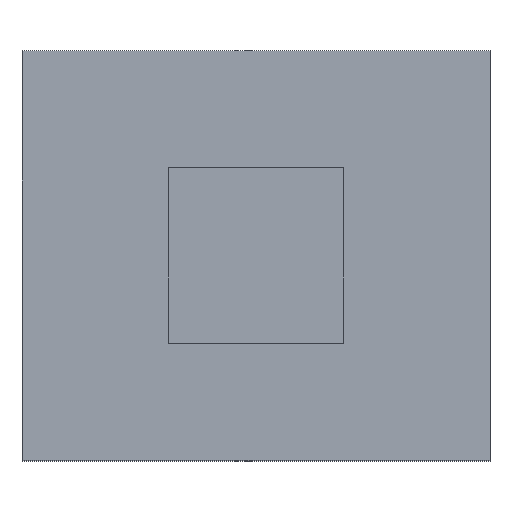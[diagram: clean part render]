
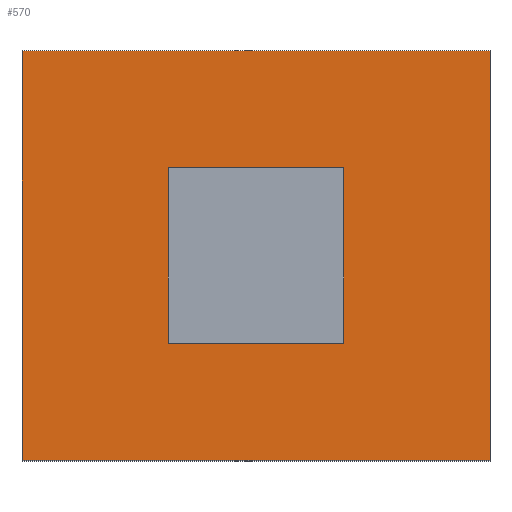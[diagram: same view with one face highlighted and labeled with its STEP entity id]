
A CAD part, top view. The second image highlights one B-rep face of the part: STEP entity #570.
In plain terms, the highlighted planar face has unit normal (0, 0, 1).
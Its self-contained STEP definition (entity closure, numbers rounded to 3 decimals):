
#32 = PLANE('',#33);
#33 = AXIS2_PLACEMENT_3D('',#34,#35,#36);
#34 = CARTESIAN_POINT('',(0.,14.,16.));
#35 = DIRECTION('',(1.,0.,0.));
#36 = DIRECTION('',(0.,0.,-1.));
#57 = VERTEX_POINT('',#58);
#58 = CARTESIAN_POINT('',(0.,14.,16.));
#72 = PLANE('',#73);
#73 = AXIS2_PLACEMENT_3D('',#74,#75,#76);
#74 = CARTESIAN_POINT('',(0.,14.,16.));
#75 = DIRECTION('',(0.,-1.,0.));
#76 = DIRECTION('',(0.,0.,-1.));
#84 = EDGE_CURVE('',#57,#85,#87,.T.);
#85 = VERTEX_POINT('',#86);
#86 = CARTESIAN_POINT('',(0.,0.,16.));
#87 = SURFACE_CURVE('',#88,(#92,#99),.PCURVE_S1.);
#88 = LINE('',#89,#90);
#89 = CARTESIAN_POINT('',(0.,14.,16.));
#90 = VECTOR('',#91,1.);
#91 = DIRECTION('',(0.,-1.,0.));
#92 = PCURVE('',#32,#93);
#93 = DEFINITIONAL_REPRESENTATION('',(#94),#98);
#94 = LINE('',#95,#96);
#95 = CARTESIAN_POINT('',(0.,0.));
#96 = VECTOR('',#97,1.);
#97 = DIRECTION('',(0.,-1.));
#98 = ( GEOMETRIC_REPRESENTATION_CONTEXT(2) 
PARAMETRIC_REPRESENTATION_CONTEXT() REPRESENTATION_CONTEXT('2D SPACE',''
  ) );
#99 = PCURVE('',#100,#105);
#100 = PLANE('',#101);
#101 = AXIS2_PLACEMENT_3D('',#102,#103,#104);
#102 = CARTESIAN_POINT('',(0.,14.,16.));
#103 = DIRECTION('',(0.,0.,-1.));
#104 = DIRECTION('',(1.,0.,0.));
#105 = DEFINITIONAL_REPRESENTATION('',(#106),#110);
#106 = LINE('',#107,#108);
#107 = CARTESIAN_POINT('',(0.,0.));
#108 = VECTOR('',#109,1.);
#109 = DIRECTION('',(0.,1.));
#110 = ( GEOMETRIC_REPRESENTATION_CONTEXT(2) 
PARAMETRIC_REPRESENTATION_CONTEXT() REPRESENTATION_CONTEXT('2D SPACE',''
  ) );
#128 = PLANE('',#129);
#129 = AXIS2_PLACEMENT_3D('',#130,#131,#132);
#130 = CARTESIAN_POINT('',(0.,0.,16.));
#131 = DIRECTION('',(0.,-1.,0.));
#132 = DIRECTION('',(0.,0.,-1.));
#293 = PLANE('',#294);
#294 = AXIS2_PLACEMENT_3D('',#295,#296,#297);
#295 = CARTESIAN_POINT('',(16.,14.,16.));
#296 = DIRECTION('',(1.,0.,0.));
#297 = DIRECTION('',(0.,0.,-1.));
#525 = EDGE_CURVE('',#85,#526,#528,.T.);
#526 = VERTEX_POINT('',#527);
#527 = CARTESIAN_POINT('',(16.,0.,16.));
#528 = SURFACE_CURVE('',#529,(#533,#540),.PCURVE_S1.);
#529 = LINE('',#530,#531);
#530 = CARTESIAN_POINT('',(0.,0.,16.));
#531 = VECTOR('',#532,1.);
#532 = DIRECTION('',(1.,0.,0.));
#533 = PCURVE('',#128,#534);
#534 = DEFINITIONAL_REPRESENTATION('',(#535),#539);
#535 = LINE('',#536,#537);
#536 = CARTESIAN_POINT('',(0.,0.));
#537 = VECTOR('',#538,1.);
#538 = DIRECTION('',(0.,1.));
#539 = ( GEOMETRIC_REPRESENTATION_CONTEXT(2) 
PARAMETRIC_REPRESENTATION_CONTEXT() REPRESENTATION_CONTEXT('2D SPACE',''
  ) );
#540 = PCURVE('',#100,#541);
#541 = DEFINITIONAL_REPRESENTATION('',(#542),#546);
#542 = LINE('',#543,#544);
#543 = CARTESIAN_POINT('',(0.,14.));
#544 = VECTOR('',#545,1.);
#545 = DIRECTION('',(1.,0.));
#546 = ( GEOMETRIC_REPRESENTATION_CONTEXT(2) 
PARAMETRIC_REPRESENTATION_CONTEXT() REPRESENTATION_CONTEXT('2D SPACE',''
  ) );
#570 = ADVANCED_FACE('',(#571,#619),#100,.F.);
#571 = FACE_BOUND('',#572,.F.);
#572 = EDGE_LOOP('',(#573,#574,#597,#618));
#573 = ORIENTED_EDGE('',*,*,#84,.F.);
#574 = ORIENTED_EDGE('',*,*,#575,.T.);
#575 = EDGE_CURVE('',#57,#576,#578,.T.);
#576 = VERTEX_POINT('',#577);
#577 = CARTESIAN_POINT('',(16.,14.,16.));
#578 = SURFACE_CURVE('',#579,(#583,#590),.PCURVE_S1.);
#579 = LINE('',#580,#581);
#580 = CARTESIAN_POINT('',(0.,14.,16.));
#581 = VECTOR('',#582,1.);
#582 = DIRECTION('',(1.,0.,0.));
#583 = PCURVE('',#100,#584);
#584 = DEFINITIONAL_REPRESENTATION('',(#585),#589);
#585 = LINE('',#586,#587);
#586 = CARTESIAN_POINT('',(0.,0.));
#587 = VECTOR('',#588,1.);
#588 = DIRECTION('',(1.,0.));
#589 = ( GEOMETRIC_REPRESENTATION_CONTEXT(2) 
PARAMETRIC_REPRESENTATION_CONTEXT() REPRESENTATION_CONTEXT('2D SPACE',''
  ) );
#590 = PCURVE('',#72,#591);
#591 = DEFINITIONAL_REPRESENTATION('',(#592),#596);
#592 = LINE('',#593,#594);
#593 = CARTESIAN_POINT('',(0.,0.));
#594 = VECTOR('',#595,1.);
#595 = DIRECTION('',(0.,1.));
#596 = ( GEOMETRIC_REPRESENTATION_CONTEXT(2) 
PARAMETRIC_REPRESENTATION_CONTEXT() REPRESENTATION_CONTEXT('2D SPACE',''
  ) );
#597 = ORIENTED_EDGE('',*,*,#598,.T.);
#598 = EDGE_CURVE('',#576,#526,#599,.T.);
#599 = SURFACE_CURVE('',#600,(#604,#611),.PCURVE_S1.);
#600 = LINE('',#601,#602);
#601 = CARTESIAN_POINT('',(16.,14.,16.));
#602 = VECTOR('',#603,1.);
#603 = DIRECTION('',(0.,-1.,0.));
#604 = PCURVE('',#100,#605);
#605 = DEFINITIONAL_REPRESENTATION('',(#606),#610);
#606 = LINE('',#607,#608);
#607 = CARTESIAN_POINT('',(16.,0.));
#608 = VECTOR('',#609,1.);
#609 = DIRECTION('',(0.,1.));
#610 = ( GEOMETRIC_REPRESENTATION_CONTEXT(2) 
PARAMETRIC_REPRESENTATION_CONTEXT() REPRESENTATION_CONTEXT('2D SPACE',''
  ) );
#611 = PCURVE('',#293,#612);
#612 = DEFINITIONAL_REPRESENTATION('',(#613),#617);
#613 = LINE('',#614,#615);
#614 = CARTESIAN_POINT('',(0.,0.));
#615 = VECTOR('',#616,1.);
#616 = DIRECTION('',(0.,-1.));
#617 = ( GEOMETRIC_REPRESENTATION_CONTEXT(2) 
PARAMETRIC_REPRESENTATION_CONTEXT() REPRESENTATION_CONTEXT('2D SPACE',''
  ) );
#618 = ORIENTED_EDGE('',*,*,#525,.F.);
#619 = FACE_BOUND('',#620,.F.);
#620 = EDGE_LOOP('',(#621,#651,#679,#707));
#621 = ORIENTED_EDGE('',*,*,#622,.T.);
#622 = EDGE_CURVE('',#623,#625,#627,.T.);
#623 = VERTEX_POINT('',#624);
#624 = CARTESIAN_POINT('',(11.,10.,16.));
#625 = VERTEX_POINT('',#626);
#626 = CARTESIAN_POINT('',(5.,10.,16.));
#627 = SURFACE_CURVE('',#628,(#632,#639),.PCURVE_S1.);
#628 = LINE('',#629,#630);
#629 = CARTESIAN_POINT('',(2.5,10.,16.));
#630 = VECTOR('',#631,1.);
#631 = DIRECTION('',(-1.,0.,-0.));
#632 = PCURVE('',#100,#633);
#633 = DEFINITIONAL_REPRESENTATION('',(#634),#638);
#634 = LINE('',#635,#636);
#635 = CARTESIAN_POINT('',(2.5,4.));
#636 = VECTOR('',#637,1.);
#637 = DIRECTION('',(-1.,0.));
#638 = ( GEOMETRIC_REPRESENTATION_CONTEXT(2) 
PARAMETRIC_REPRESENTATION_CONTEXT() REPRESENTATION_CONTEXT('2D SPACE',''
  ) );
#639 = PCURVE('',#640,#645);
#640 = PLANE('',#641);
#641 = AXIS2_PLACEMENT_3D('',#642,#643,#644);
#642 = CARTESIAN_POINT('',(5.,10.,19.));
#643 = DIRECTION('',(0.,-1.,0.));
#644 = DIRECTION('',(0.,0.,-1.));
#645 = DEFINITIONAL_REPRESENTATION('',(#646),#650);
#646 = LINE('',#647,#648);
#647 = CARTESIAN_POINT('',(3.,-2.5));
#648 = VECTOR('',#649,1.);
#649 = DIRECTION('',(-0.,-1.));
#650 = ( GEOMETRIC_REPRESENTATION_CONTEXT(2) 
PARAMETRIC_REPRESENTATION_CONTEXT() REPRESENTATION_CONTEXT('2D SPACE',''
  ) );
#651 = ORIENTED_EDGE('',*,*,#652,.T.);
#652 = EDGE_CURVE('',#625,#653,#655,.T.);
#653 = VERTEX_POINT('',#654);
#654 = CARTESIAN_POINT('',(5.,4.,16.));
#655 = SURFACE_CURVE('',#656,(#660,#667),.PCURVE_S1.);
#656 = LINE('',#657,#658);
#657 = CARTESIAN_POINT('',(5.,12.,16.));
#658 = VECTOR('',#659,1.);
#659 = DIRECTION('',(0.,-1.,0.));
#660 = PCURVE('',#100,#661);
#661 = DEFINITIONAL_REPRESENTATION('',(#662),#666);
#662 = LINE('',#663,#664);
#663 = CARTESIAN_POINT('',(5.,2.));
#664 = VECTOR('',#665,1.);
#665 = DIRECTION('',(0.,1.));
#666 = ( GEOMETRIC_REPRESENTATION_CONTEXT(2) 
PARAMETRIC_REPRESENTATION_CONTEXT() REPRESENTATION_CONTEXT('2D SPACE',''
  ) );
#667 = PCURVE('',#668,#673);
#668 = PLANE('',#669);
#669 = AXIS2_PLACEMENT_3D('',#670,#671,#672);
#670 = CARTESIAN_POINT('',(5.,10.,19.));
#671 = DIRECTION('',(1.,0.,0.));
#672 = DIRECTION('',(0.,0.,-1.));
#673 = DEFINITIONAL_REPRESENTATION('',(#674),#678);
#674 = LINE('',#675,#676);
#675 = CARTESIAN_POINT('',(3.,2.));
#676 = VECTOR('',#677,1.);
#677 = DIRECTION('',(0.,-1.));
#678 = ( GEOMETRIC_REPRESENTATION_CONTEXT(2) 
PARAMETRIC_REPRESENTATION_CONTEXT() REPRESENTATION_CONTEXT('2D SPACE',''
  ) );
#679 = ORIENTED_EDGE('',*,*,#680,.F.);
#680 = EDGE_CURVE('',#681,#653,#683,.T.);
#681 = VERTEX_POINT('',#682);
#682 = CARTESIAN_POINT('',(11.,4.,16.));
#683 = SURFACE_CURVE('',#684,(#688,#695),.PCURVE_S1.);
#684 = LINE('',#685,#686);
#685 = CARTESIAN_POINT('',(2.5,4.,16.));
#686 = VECTOR('',#687,1.);
#687 = DIRECTION('',(-1.,0.,-0.));
#688 = PCURVE('',#100,#689);
#689 = DEFINITIONAL_REPRESENTATION('',(#690),#694);
#690 = LINE('',#691,#692);
#691 = CARTESIAN_POINT('',(2.5,10.));
#692 = VECTOR('',#693,1.);
#693 = DIRECTION('',(-1.,0.));
#694 = ( GEOMETRIC_REPRESENTATION_CONTEXT(2) 
PARAMETRIC_REPRESENTATION_CONTEXT() REPRESENTATION_CONTEXT('2D SPACE',''
  ) );
#695 = PCURVE('',#696,#701);
#696 = PLANE('',#697);
#697 = AXIS2_PLACEMENT_3D('',#698,#699,#700);
#698 = CARTESIAN_POINT('',(5.,4.,19.));
#699 = DIRECTION('',(0.,-1.,0.));
#700 = DIRECTION('',(0.,0.,-1.));
#701 = DEFINITIONAL_REPRESENTATION('',(#702),#706);
#702 = LINE('',#703,#704);
#703 = CARTESIAN_POINT('',(3.,-2.5));
#704 = VECTOR('',#705,1.);
#705 = DIRECTION('',(-0.,-1.));
#706 = ( GEOMETRIC_REPRESENTATION_CONTEXT(2) 
PARAMETRIC_REPRESENTATION_CONTEXT() REPRESENTATION_CONTEXT('2D SPACE',''
  ) );
#707 = ORIENTED_EDGE('',*,*,#708,.F.);
#708 = EDGE_CURVE('',#623,#681,#709,.T.);
#709 = SURFACE_CURVE('',#710,(#714,#721),.PCURVE_S1.);
#710 = LINE('',#711,#712);
#711 = CARTESIAN_POINT('',(11.,12.,16.));
#712 = VECTOR('',#713,1.);
#713 = DIRECTION('',(0.,-1.,0.));
#714 = PCURVE('',#100,#715);
#715 = DEFINITIONAL_REPRESENTATION('',(#716),#720);
#716 = LINE('',#717,#718);
#717 = CARTESIAN_POINT('',(11.,2.));
#718 = VECTOR('',#719,1.);
#719 = DIRECTION('',(0.,1.));
#720 = ( GEOMETRIC_REPRESENTATION_CONTEXT(2) 
PARAMETRIC_REPRESENTATION_CONTEXT() REPRESENTATION_CONTEXT('2D SPACE',''
  ) );
#721 = PCURVE('',#722,#727);
#722 = PLANE('',#723);
#723 = AXIS2_PLACEMENT_3D('',#724,#725,#726);
#724 = CARTESIAN_POINT('',(11.,10.,19.));
#725 = DIRECTION('',(1.,0.,0.));
#726 = DIRECTION('',(0.,0.,-1.));
#727 = DEFINITIONAL_REPRESENTATION('',(#728),#732);
#728 = LINE('',#729,#730);
#729 = CARTESIAN_POINT('',(3.,2.));
#730 = VECTOR('',#731,1.);
#731 = DIRECTION('',(0.,-1.));
#732 = ( GEOMETRIC_REPRESENTATION_CONTEXT(2) 
PARAMETRIC_REPRESENTATION_CONTEXT() REPRESENTATION_CONTEXT('2D SPACE',''
  ) );
